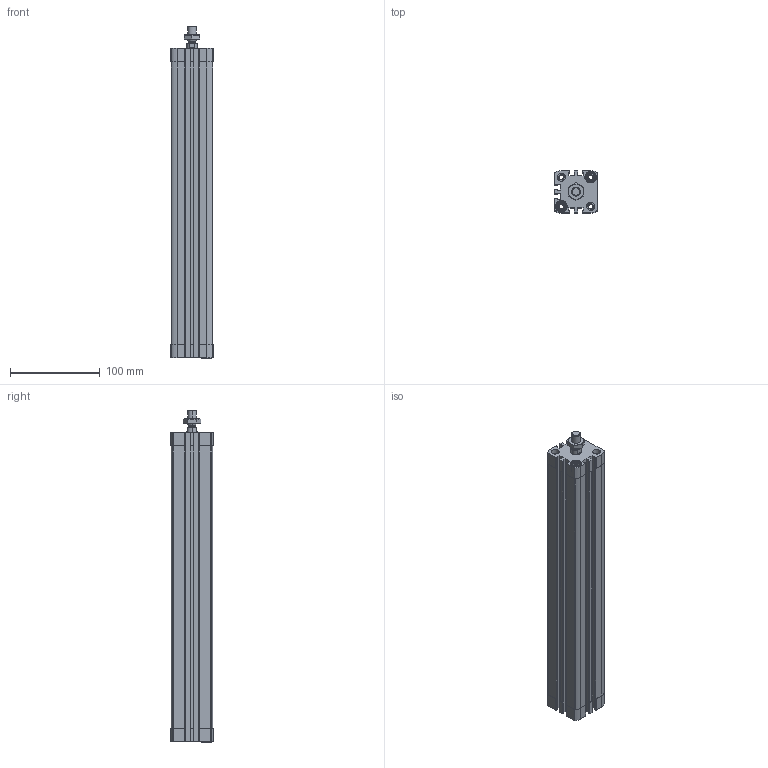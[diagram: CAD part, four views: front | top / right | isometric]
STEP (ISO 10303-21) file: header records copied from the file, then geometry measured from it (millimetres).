
FILE_DESCRIPTION (( 'STEP AP203' ), '1' );
FILE_NAME ('CCN32-300M.STEP', '2017-03-29T13:45:05', ( '' ), ( '' ), 'SwSTEP 2.0', 'SolidWorks 2016', '' );
FILE_SCHEMA (( 'CONFIG_CONTROL_DESIGN' ));
Length unit declared in the file: millimetre
Products named in the file (4): CCN-300_(KS); _DIN-439-B - M10x1.25(F); CCN32-300M; CCN-300---(Z)
Assembly tree (3 placements, depth 2):
  CCN32-300M
    CCN-300---(Z)
    CCN-300_(KS)
    _DIN-439-B - M10x1.25(F)
Bounding box: 47 x 47 x 369 mm (x, y, z)
Volume: 419829.1 mm3; surface area: 170312.7 mm2
Topology: 3 solids, 3 shells, 499 faces, 1334 edges, 872 vertices
Faces by surface type: plane 275, cylinder 172, cone 48, bspline 4
Entity records: 16246 total; most frequent: CARTESIAN_POINT 3119, DIRECTION 2720, ORIENTED_EDGE 2668, EDGE_CURVE 1334, AXIS2_PLACEMENT_3D 997, VERTEX_POINT 872, LINE 726, VECTOR 726
